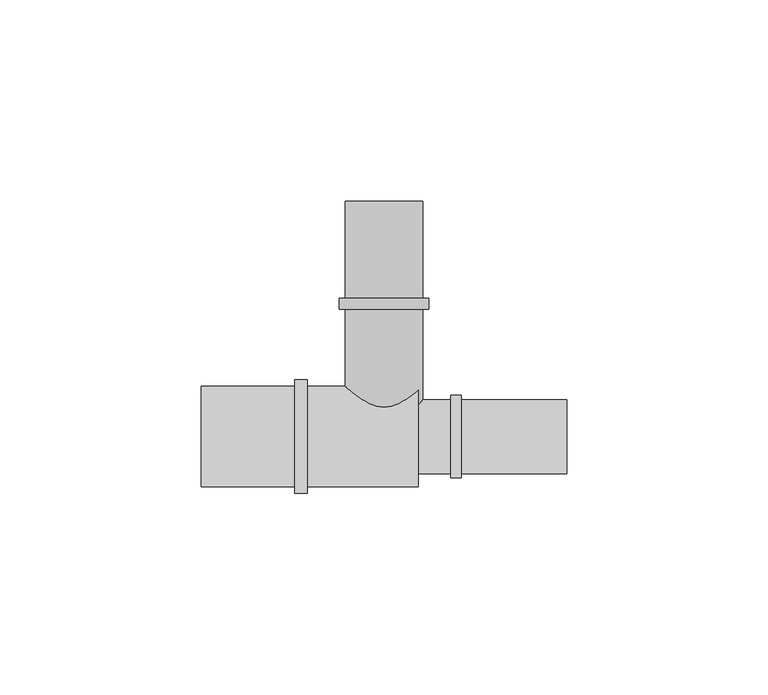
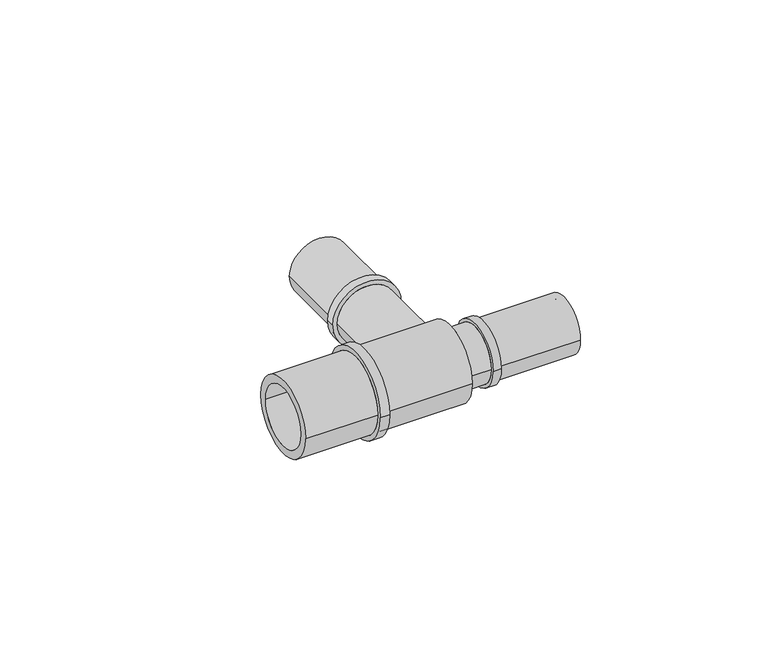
"""IFC4 building model written with IfcOpenShell, lengths in millimetres: pipe fitting geometry, FASTLOC_T-piece_LX : FSL T-Piece LX PL."""

from ifc_helpers import new_model, si_unit, frame, origin, place, context, project, spatial, polyline, circle_curve, source, transform, mapped, element, save
from ifc_brep_helpers import plane_surface, cylinder_surface, revolved_surface, advanced_brep


def pipe_fitting_897fe79f(model_context):
    return source(origin(), model_context, "Body", "AdvancedBrep", [
        advanced_brep(
        [(7.35, 58.4, 0.0), (-7.35, 58.4, 0.0), (-7.35, 0.0, 0.0), (7.35, 0.0, 0.0), (9.6, 0.0, 0.0), (-9.6, 0.0, 0.0), (-9.6, 31.6, 0.0), (9.6, 31.6, 0.0), (11.1, 31.6, 0.0), (-11.1, 31.6, 0.0), (-11.1, 34.4, 0.0), (11.1, 34.4, 0.0), (9.6, 34.4, 0.0), (-9.6, 34.4, 0.0), (-9.6, 58.4, 0.0), (9.6, 58.4, 0.0)],
        [
            (0, 1, circle_curve(frame((0.0, 58.4, 0.0), z_axis=(0.0, 1.0, 0.0), x_axis=(-1.0, 0.0, 0.0)), 7.35)),
            (1, 2),
            (2, 3, circle_curve(frame((0.0, 0.0, 0.0), z_axis=(0.0, -1.0, 0.0), x_axis=(-1.0, 0.0, 0.0)), 7.35)),
            (3, 0),
            (4, 5, circle_curve(frame((0.0, 0.0, 0.0), z_axis=(0.0, 1.0, 0.0), x_axis=(-1.0, 0.0, 0.0)), 9.6)),
            (5, 6),
            (6, 7, circle_curve(frame((0.0, 31.6, 0.0), z_axis=(0.0, -1.0, 0.0), x_axis=(-1.0, 0.0, 0.0)), 9.6)),
            (7, 4),
            (8, 9, circle_curve(frame((0.0, 31.6, 0.0), z_axis=(0.0, 1.0, 0.0), x_axis=(-1.0, 0.0, 0.0)), 11.1)),
            (9, 10),
            (10, 11, circle_curve(frame((0.0, 34.4, 0.0), z_axis=(0.0, -1.0, 0.0), x_axis=(-1.0, 0.0, 0.0)), 11.1)),
            (11, 8),
            (12, 13, circle_curve(frame((0.0, 34.4, 0.0), z_axis=(0.0, 1.0, 0.0), x_axis=(-1.0, 0.0, 0.0)), 9.6)),
            (13, 14),
            (14, 15, circle_curve(frame((0.0, 58.4, 0.0), z_axis=(0.0, -1.0, 0.0), x_axis=(-1.0, 0.0, 0.0)), 9.6)),
            (15, 12),
            (1, 0, circle_curve(frame((0.0, 58.4, 0.0), z_axis=(0.0, 1.0, 0.0), x_axis=(1.0, 0.0, 0.0)), 7.35)),
            (3, 2, circle_curve(frame((0.0, 0.0, 0.0), z_axis=(0.0, -1.0, 0.0), x_axis=(1.0, 0.0, 0.0)), 7.35)),
            (4, 5, circle_curve(frame((0.0, 0.0, 0.0), z_axis=(0.0, -1.0, 0.0), x_axis=(1.0, 0.0, 0.0)), 9.6)),
            (7, 6, circle_curve(frame((0.0, 31.6, 0.0), z_axis=(0.0, -1.0, 0.0), x_axis=(1.0, 0.0, 0.0)), 9.6)),
            (8, 9, circle_curve(frame((0.0, 31.6, 0.0), z_axis=(0.0, -1.0, 0.0), x_axis=(1.0, 0.0, 0.0)), 11.1)),
            (11, 10, circle_curve(frame((0.0, 34.4, 0.0), z_axis=(0.0, -1.0, 0.0), x_axis=(1.0, 0.0, 0.0)), 11.1)),
            (12, 13, circle_curve(frame((0.0, 34.4, 0.0), z_axis=(0.0, -1.0, 0.0), x_axis=(1.0, 0.0, 0.0)), 9.6)),
            (15, 14, circle_curve(frame((0.0, 58.4, 0.0), z_axis=(0.0, -1.0, 0.0), x_axis=(1.0, 0.0, 0.0)), 9.6)),
        ],
        [
            revolved_surface(polyline([(-7.35, 0.0, 0.0), (-7.35, 58.4, 0.0)]), (0.0, 0.0, 0.0), (0.0, -1.0, 0.0)),
            cylinder_surface(frame((0.0, 0.0, 0.0), z_axis=(0.0, -1.0, 0.0), x_axis=(-1.0, 0.0, 0.0)), 9.6),
            cylinder_surface(frame((0.0, 0.0, 0.0), z_axis=(0.0, -1.0, 0.0), x_axis=(-1.0, 0.0, 0.0)), 11.1),
            revolved_surface(polyline([(7.35, 0.0, 0.0), (7.35, 58.4, 0.0)]), (0.0, 0.0, 0.0), (0.0, -1.0, 0.0)),
            plane_surface(frame((0.0, 0.0, 0.0), z_axis=(0.0, -1.0, 0.0), x_axis=(1.0, 0.0, 0.0))),
            cylinder_surface(frame((0.0, 0.0, 0.0), z_axis=(0.0, -1.0, 0.0), x_axis=(1.0, 0.0, 0.0)), 9.6),
            plane_surface(frame((0.0, 31.6, 0.0), z_axis=(0.0, -1.0, 0.0), x_axis=(1.0, 0.0, 0.0))),
            cylinder_surface(frame((0.0, 0.0, 0.0), z_axis=(0.0, -1.0, 0.0), x_axis=(1.0, 0.0, 0.0)), 11.1),
            plane_surface(frame((0.0, 34.4, 0.0), z_axis=(0.0, 1.0, 0.0), x_axis=(1.0, 0.0, 0.0))),
            plane_surface(frame((0.0, 58.4, 0.0), z_axis=(0.0, 1.0, 0.0), x_axis=(1.0, 0.0, 0.0))),
        ],
        [
            (0, [[1, 2, 3, 4]]),
            (1, [[5, 6, 7, 8]]),
            (2, [[9, 10, 11, 12]]),
            (1, [[13, 14, 15, 16]]),
            (3, [[17, -4, 18, -2]]),
            (4, [[19, -5], [-18, -3]]),
            (5, [[-19, -8, 20, -6]]),
            (6, [[21, -9], [-20, -7]]),
            (7, [[-21, -12, 22, -10]]),
            (8, [[-22, -11], [23, -13]]),
            (5, [[-23, -16, 24, -14]]),
            (9, [[-24, -15], [-17, -1]]),
        ],
    ),
        advanced_brep(
        [(16.53, 9.2, 0.0), (16.53, -9.2, 0.0), (8.5, -9.2, 0.0), (8.5, 9.2, 0.0), (19.2, 10.25, 0.0), (19.2, -10.25, 0.0), (16.53, -10.25, 0.0), (16.53, 10.25, 0.0), (45.35, 9.2, 0.0), (45.35, -9.2, 0.0), (19.2, -9.2, 0.0), (19.2, 9.2, 0.0), (6.5, 7.2, 0.0), (6.5, -7.2, 0.0), (45.35, -7.2, 0.0), (45.35, 7.2, 0.0), (-45.35, 9.85, 0.0), (-45.35, -9.85, 0.0), (6.5, -9.85, 0.0), (6.5, 9.85, 0.0), (-22.1, 12.5, 0.0), (-22.1, -12.5, 0.0), (-45.35, -12.5, 0.0), (-45.35, 12.5, 0.0), (-19.1, 14.1, 0.0), (-19.1, -14.1, 0.0), (-22.1, -14.1, 0.0), (-22.1, 14.1, 0.0), (8.5, 12.5, 0.0), (8.5, -12.5, 0.0), (-19.1, -12.5, 0.0), (-19.1, 12.5, 0.0)],
        [
            (0, 1, circle_curve(frame((16.53, 0.0, 0.0), z_axis=(-1.0, 0.0, 0.0), x_axis=(0.0, -1.0, 0.0)), 9.2)),
            (1, 2),
            (2, 3, circle_curve(frame((8.5, 0.0, 0.0), z_axis=(1.0, 0.0, 0.0), x_axis=(0.0, -1.0, 0.0)), 9.2)),
            (3, 0),
            (4, 5, circle_curve(frame((19.2, 0.0, 0.0), z_axis=(-1.0, 0.0, 0.0), x_axis=(0.0, -1.0, 0.0)), 10.25)),
            (5, 6),
            (6, 7, circle_curve(frame((16.53, 0.0, 0.0), z_axis=(1.0, 0.0, 0.0), x_axis=(0.0, -1.0, 0.0)), 10.25)),
            (7, 4),
            (8, 9, circle_curve(frame((45.35, 0.0, 0.0), z_axis=(-1.0, 0.0, 0.0), x_axis=(0.0, -1.0, 0.0)), 9.2)),
            (9, 10),
            (10, 11, circle_curve(frame((19.2, 0.0, 0.0), z_axis=(1.0, 0.0, 0.0), x_axis=(0.0, -1.0, 0.0)), 9.2)),
            (11, 8),
            (12, 13, circle_curve(frame((6.5, 0.0, 0.0), z_axis=(-1.0, 0.0, 0.0), x_axis=(0.0, -1.0, 0.0)), 7.2)),
            (13, 14),
            (14, 15, circle_curve(frame((45.35, 0.0, 0.0), z_axis=(1.0, 0.0, 0.0), x_axis=(0.0, -1.0, 0.0)), 7.2)),
            (15, 12),
            (16, 17, circle_curve(frame((-45.35, 0.0, 0.0), z_axis=(-1.0, 0.0, 0.0), x_axis=(0.0, -1.0, 0.0)), 9.85)),
            (17, 18),
            (18, 19, circle_curve(frame((6.5, 0.0, 0.0), z_axis=(1.0, 0.0, 0.0), x_axis=(0.0, -1.0, 0.0)), 9.85)),
            (19, 16),
            (20, 21, circle_curve(frame((-22.1, 0.0, 0.0), z_axis=(-1.0, 0.0, 0.0), x_axis=(0.0, -1.0, 0.0)), 12.5)),
            (21, 22),
            (22, 23, circle_curve(frame((-45.35, 0.0, 0.0), z_axis=(1.0, 0.0, 0.0), x_axis=(0.0, -1.0, 0.0)), 12.5)),
            (23, 20),
            (24, 25, circle_curve(frame((-19.1, 0.0, 0.0), z_axis=(-1.0, 0.0, 0.0), x_axis=(0.0, -1.0, 0.0)), 14.1)),
            (25, 26),
            (26, 27, circle_curve(frame((-22.1, 0.0, 0.0), z_axis=(1.0, 0.0, 0.0), x_axis=(0.0, -1.0, 0.0)), 14.1)),
            (27, 24),
            (28, 29, circle_curve(frame((8.5, 0.0, 0.0), z_axis=(-1.0, 0.0, 0.0), x_axis=(0.0, -1.0, 0.0)), 12.5)),
            (29, 30),
            (30, 31, circle_curve(frame((-19.1, 0.0, 0.0), z_axis=(1.0, 0.0, 0.0), x_axis=(0.0, -1.0, 0.0)), 12.5)),
            (31, 28),
            (28, 29, circle_curve(frame((8.5, 0.0, 0.0), z_axis=(1.0, 0.0, 0.0), x_axis=(0.0, 1.0, 0.0)), 12.5)),
            (2, 3, circle_curve(frame((8.5, 0.0, 0.0), z_axis=(-1.0, 0.0, 0.0), x_axis=(0.0, 1.0, 0.0)), 9.2)),
            (1, 0, circle_curve(frame((16.53, 0.0, 0.0), z_axis=(-1.0, 0.0, 0.0), x_axis=(0.0, 1.0, 0.0)), 9.2)),
            (6, 7, circle_curve(frame((16.53, 0.0, 0.0), z_axis=(-1.0, 0.0, 0.0), x_axis=(0.0, 1.0, 0.0)), 10.25)),
            (5, 4, circle_curve(frame((19.2, 0.0, 0.0), z_axis=(-1.0, 0.0, 0.0), x_axis=(0.0, 1.0, 0.0)), 10.25)),
            (10, 11, circle_curve(frame((19.2, 0.0, 0.0), z_axis=(-1.0, 0.0, 0.0), x_axis=(0.0, 1.0, 0.0)), 9.2)),
            (9, 8, circle_curve(frame((45.35, 0.0, 0.0), z_axis=(-1.0, 0.0, 0.0), x_axis=(0.0, 1.0, 0.0)), 9.2)),
            (14, 15, circle_curve(frame((45.35, 0.0, 0.0), z_axis=(-1.0, 0.0, 0.0), x_axis=(0.0, 1.0, 0.0)), 7.2)),
            (13, 12, circle_curve(frame((6.5, 0.0, 0.0), z_axis=(-1.0, 0.0, 0.0), x_axis=(0.0, 1.0, 0.0)), 7.2)),
            (18, 19, circle_curve(frame((6.5, 0.0, 0.0), z_axis=(-1.0, 0.0, 0.0), x_axis=(0.0, 1.0, 0.0)), 9.85)),
            (17, 16, circle_curve(frame((-45.35, 0.0, 0.0), z_axis=(-1.0, 0.0, 0.0), x_axis=(0.0, 1.0, 0.0)), 9.85)),
            (22, 23, circle_curve(frame((-45.35, 0.0, 0.0), z_axis=(-1.0, 0.0, 0.0), x_axis=(0.0, 1.0, 0.0)), 12.5)),
            (21, 20, circle_curve(frame((-22.1, 0.0, 0.0), z_axis=(-1.0, 0.0, 0.0), x_axis=(0.0, 1.0, 0.0)), 12.5)),
            (26, 27, circle_curve(frame((-22.1, 0.0, 0.0), z_axis=(-1.0, 0.0, 0.0), x_axis=(0.0, 1.0, 0.0)), 14.1)),
            (25, 24, circle_curve(frame((-19.1, 0.0, 0.0), z_axis=(-1.0, 0.0, 0.0), x_axis=(0.0, 1.0, 0.0)), 14.1)),
            (30, 31, circle_curve(frame((-19.1, 0.0, 0.0), z_axis=(-1.0, 0.0, 0.0), x_axis=(0.0, 1.0, 0.0)), 12.5)),
        ],
        [
            cylinder_surface(frame((0.0, 0.0, 0.0), z_axis=(1.0, 0.0, 0.0), x_axis=(0.0, -1.0, 0.0)), 9.2),
            cylinder_surface(frame((0.0, 0.0, 0.0), z_axis=(1.0, 0.0, 0.0), x_axis=(0.0, -1.0, 0.0)), 10.25),
            revolved_surface(polyline([(45.35, -7.2, 0.0), (6.5, -7.2, 0.0)]), (0.0, 0.0, 0.0), (1.0, 0.0, 0.0)),
            revolved_surface(polyline([(6.5, -9.85, 0.0), (-45.35, -9.85, 0.0)]), (0.0, 0.0, 0.0), (1.0, 0.0, 0.0)),
            cylinder_surface(frame((0.0, 0.0, 0.0), z_axis=(1.0, 0.0, 0.0), x_axis=(0.0, -1.0, 0.0)), 12.5),
            cylinder_surface(frame((0.0, 0.0, 0.0), z_axis=(1.0, 0.0, 0.0), x_axis=(0.0, -1.0, 0.0)), 14.1),
            plane_surface(frame((8.5, 0.0, 0.0), z_axis=(1.0, 0.0, 0.0), x_axis=(0.0, 1.0, 0.0))),
            cylinder_surface(frame((0.0, 0.0, 0.0), z_axis=(1.0, 0.0, 0.0), x_axis=(0.0, 1.0, 0.0)), 9.2),
            plane_surface(frame((16.53, 0.0, 0.0), z_axis=(-1.0, 0.0, 0.0), x_axis=(0.0, 1.0, 0.0))),
            cylinder_surface(frame((0.0, 0.0, 0.0), z_axis=(1.0, 0.0, 0.0), x_axis=(0.0, 1.0, 0.0)), 10.25),
            plane_surface(frame((19.2, 0.0, 0.0), z_axis=(1.0, 0.0, 0.0), x_axis=(0.0, 1.0, 0.0))),
            plane_surface(frame((45.35, 0.0, 0.0), z_axis=(1.0, 0.0, 0.0), x_axis=(0.0, 1.0, 0.0))),
            revolved_surface(polyline([(45.35, 7.2, 0.0), (6.5, 7.2, 0.0)]), (0.0, 0.0, 0.0), (1.0, 0.0, 0.0)),
            plane_surface(frame((6.5, 0.0, 0.0), z_axis=(-1.0, 0.0, 0.0), x_axis=(0.0, 1.0, 0.0))),
            revolved_surface(polyline([(6.5, 9.85, 0.0), (-45.35, 9.85, 0.0)]), (0.0, 0.0, 0.0), (1.0, 0.0, 0.0)),
            plane_surface(frame((-45.35, 0.0, 0.0), z_axis=(-1.0, 0.0, 0.0), x_axis=(0.0, 1.0, 0.0))),
            cylinder_surface(frame((0.0, 0.0, 0.0), z_axis=(1.0, 0.0, 0.0), x_axis=(0.0, 1.0, 0.0)), 12.5),
            plane_surface(frame((-22.1, 0.0, 0.0), z_axis=(-1.0, 0.0, 0.0), x_axis=(0.0, 1.0, 0.0))),
            cylinder_surface(frame((0.0, 0.0, 0.0), z_axis=(1.0, 0.0, 0.0), x_axis=(0.0, 1.0, 0.0)), 14.1),
            plane_surface(frame((-19.1, 0.0, 0.0), z_axis=(1.0, 0.0, 0.0), x_axis=(0.0, 1.0, 0.0))),
        ],
        [
            (0, [[1, 2, 3, 4]]),
            (1, [[5, 6, 7, 8]]),
            (0, [[9, 10, 11, 12]]),
            (2, [[13, 14, 15, 16]]),
            (3, [[17, 18, 19, 20]]),
            (4, [[21, 22, 23, 24]]),
            (5, [[25, 26, 27, 28]]),
            (4, [[29, 30, 31, 32]]),
            (6, [[33, -29], [34, -3]]),
            (7, [[35, -4, -34, -2]]),
            (8, [[36, -7], [-35, -1]]),
            (9, [[37, -8, -36, -6]]),
            (10, [[-37, -5], [38, -11]]),
            (7, [[39, -12, -38, -10]]),
            (11, [[-39, -9], [40, -15]]),
            (12, [[41, -16, -40, -14]]),
            (13, [[42, -19], [-41, -13]]),
            (14, [[43, -20, -42, -18]]),
            (15, [[44, -23], [-43, -17]]),
            (16, [[45, -24, -44, -22]]),
            (17, [[46, -27], [-45, -21]]),
            (18, [[47, -28, -46, -26]]),
            (19, [[-47, -25], [48, -31]]),
            (16, [[-33, -32, -48, -30]]),
        ],
    ),
    ])


if __name__ == "__main__":
    model = new_model("IFC4")
    model_context = context("Model", 3, world=origin())
    ifc_project = project(units=[si_unit("LENGTHUNIT", "METRE", prefix="MILLI")], contexts=[model_context])
    site = spatial("IfcSite", under=ifc_project)
    building = spatial("IfcBuilding", under=site)
    placement = place(None, origin())
    pipe_fitting_shape = pipe_fitting_897fe79f(model_context)
    element("IfcPipeFitting", 1, ObjectType="FASTLOC_T-piece_LX : FSL T-Piece LX PL", at=placement, inside=building, context=model_context, shape_type="MappedRepresentation", body=[
        mapped(pipe_fitting_shape, transform((0.0, 0.0, 0.0), x_axis=(1.0, 0.0, 0.0), y_axis=(0.0, 1.0, 0.0), z_axis=(0.0, 0.0, 1.0))),
    ])
    save(model, "model.ifc")
